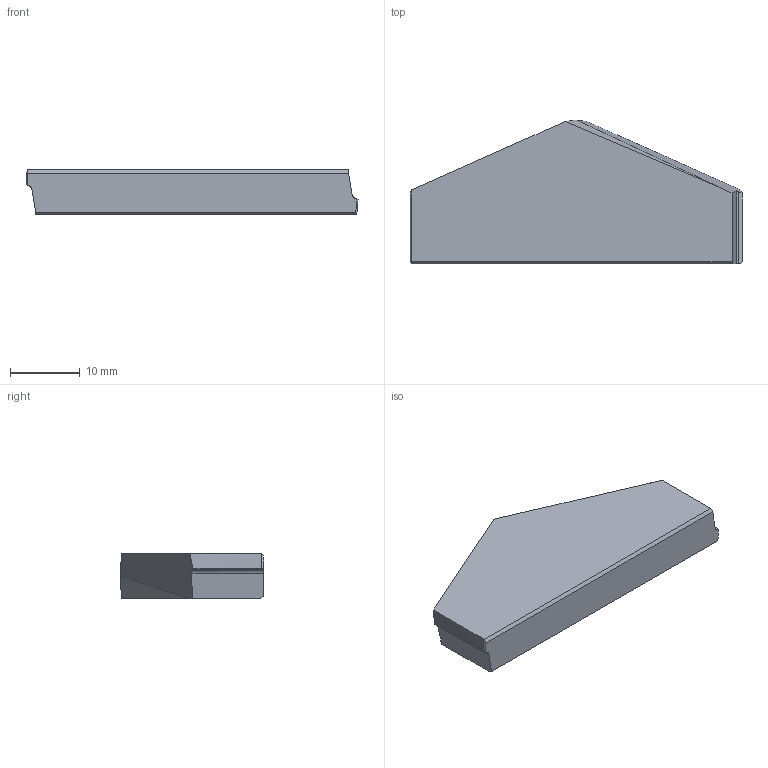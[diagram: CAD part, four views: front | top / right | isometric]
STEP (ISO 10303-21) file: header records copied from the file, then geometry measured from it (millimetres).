
FILE_DESCRIPTION (( 'STEP AP214' ), '1' );
FILE_NAME ('02-1067.STEP', '2022-06-24T06:00:16', ( '' ), ( '' ), 'SwSTEP 2.0', 'SolidWorks 2018', '' );
FILE_SCHEMA (( 'AUTOMOTIVE_DESIGN' ));
Length unit declared in the file: millimetre
Products named in the file (1): 02-1067
Bounding box: 47.58 x 20.6 x 6.4 mm (x, y, z)
Volume: 4548.6 mm3; surface area: 2160.1 mm2
Topology: 1 solids, 1 shells, 19 faces, 50 edges, 33 vertices
Faces by surface type: plane 13, cylinder 4, cone 2
Entity records: 620 total; most frequent: CARTESIAN_POINT 133, ORIENTED_EDGE 100, DIRECTION 86, EDGE_CURVE 50, VECTOR 34, LINE 34, VERTEX_POINT 33, AXIS2_PLACEMENT_3D 26
